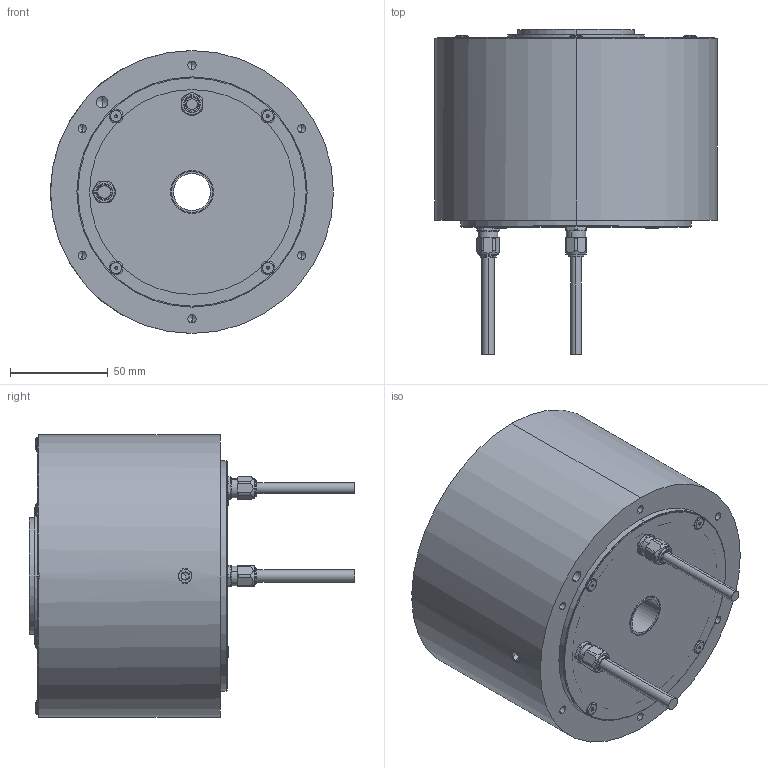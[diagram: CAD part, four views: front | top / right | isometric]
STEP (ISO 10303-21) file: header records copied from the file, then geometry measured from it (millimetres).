
FILE_DESCRIPTION (( 'STEP AP214' ), '1' );
FILE_NAME ('ND140-95-LSP(INC).step', '2025-03-10T02:16:54', ( '' ), ( '' ), 'SwSTEP 2.0', 'SolidWorks 2024', '' );
FILE_SCHEMA (( 'AUTOMOTIVE_DESIGN' ));
Length unit declared in the file: millimetre
Products named in the file (1): ND140-95-LSP(INC)
Bounding box: 145 x 166.6 x 145 mm (x, y, z)
Volume: 272861.7 mm3; surface area: 182151.4 mm2
Topology: 19 solids, 19 shells, 606 faces, 1518 edges, 945 vertices
Faces by surface type: cylinder 355, cone 114, plane 105, torus 22, sphere 10
Entity records: 19325 total; most frequent: CARTESIAN_POINT 4664, DIRECTION 3130, ORIENTED_EDGE 2924, EDGE_CURVE 1462, AXIS2_PLACEMENT_3D 1295, VERTEX_POINT 945, EDGE_LOOP 715, CIRCLE 688
